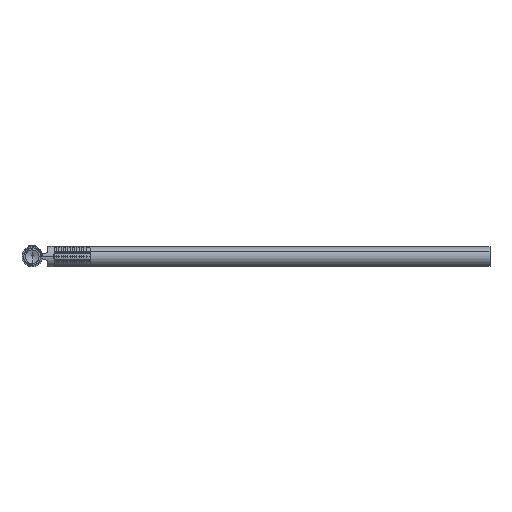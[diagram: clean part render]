
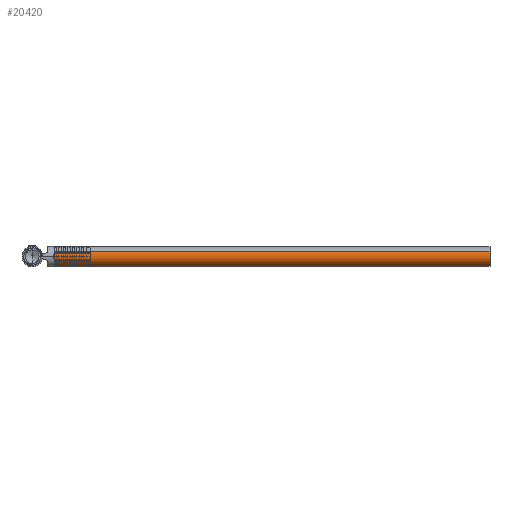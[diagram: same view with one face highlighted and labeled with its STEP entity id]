
A CAD part, left-side view. The second image highlights one B-rep face of the part: STEP entity #20420.
In plain terms, the highlighted cylindrical face has radius 13.716 mm (diameter 27.432 mm), a partial arc.
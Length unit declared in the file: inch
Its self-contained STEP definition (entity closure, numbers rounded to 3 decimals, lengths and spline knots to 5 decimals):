
#1891 = DIRECTION ( 'NONE',  ( 1., 0., 0. ) ) ;
#2770 = EDGE_CURVE ( 'NONE', #13850, #23858, #14737, .T. ) ;
#2812 = EDGE_CURVE ( 'NONE', #22369, #13850, #7436, .T. ) ;
#2820 = EDGE_CURVE ( 'NONE', #18526, #23858, #15528, .T. ) ;
#2862 = EDGE_CURVE ( 'NONE', #22369, #18526, #24948, .T. ) ;
#3108 = ORIENTED_EDGE ( 'NONE', *, *, #2770, .T. ) ;
#6493 = ORIENTED_EDGE ( 'NONE', *, *, #2820, .F. ) ;
#7209 = DIRECTION ( 'NONE',  ( 1., 0., 0. ) ) ;
#7436 = CIRCLE ( 'NONE', #18104, 0.54 ) ;
#7506 = CARTESIAN_POINT ( 'NONE',  ( 0., 0., 0.54 ) ) ;
#7544 = DIRECTION ( 'NONE',  ( 1., 0., 0. ) ) ;
#8209 = VECTOR ( 'NONE', #7209, 39.37008 ) ;
#8405 = CARTESIAN_POINT ( 'NONE',  ( -24., 0., -0.54 ) ) ;
#9959 = CARTESIAN_POINT ( 'NONE',  ( -24., 0., 0. ) ) ;
#11066 = AXIS2_PLACEMENT_3D ( 'NONE', #31906, #1891, #14457 ) ;
#12392 = DIRECTION ( 'NONE',  ( 0., 0., -1. ) ) ;
#12750 = ORIENTED_EDGE ( 'NONE', *, *, #2812, .T. ) ;
#13850 = VERTEX_POINT ( 'NONE', #19830 ) ;
#14457 = DIRECTION ( 'NONE',  ( 0., 0., -1. ) ) ;
#14521 = CARTESIAN_POINT ( 'NONE',  ( 0., 0., 0.54 ) ) ;
#14737 = LINE ( 'NONE', #14521, #8209 ) ;
#15528 = CIRCLE ( 'NONE', #26504, 0.54 ) ;
#17602 = DIRECTION ( 'NONE',  ( 1., 0., 0. ) ) ;
#18104 = AXIS2_PLACEMENT_3D ( 'NONE', #9959, #27356, #12392 ) ;
#18526 = VERTEX_POINT ( 'NONE', #19414 ) ;
#19414 = CARTESIAN_POINT ( 'NONE',  ( 0., 0., -0.54 ) ) ;
#19795 = ORIENTED_EDGE ( 'NONE', *, *, #2862, .F. ) ;
#19830 = CARTESIAN_POINT ( 'NONE',  ( -24., 0., 0.54 ) ) ;
#20420 = ADVANCED_FACE ( 'NONE', ( #24792 ), #30588, .T. ) ;
#22232 = EDGE_LOOP ( 'NONE', ( #12750, #3108, #6493, #19795 ) ) ;
#22369 = VERTEX_POINT ( 'NONE', #8405 ) ;
#22471 = CARTESIAN_POINT ( 'NONE',  ( 0., 0., 0. ) ) ;
#23858 = VERTEX_POINT ( 'NONE', #7506 ) ;
#24792 = FACE_OUTER_BOUND ( 'NONE', #22232, .T. ) ;
#24944 = DIRECTION ( 'NONE',  ( 0., 0., -1. ) ) ;
#24948 = LINE ( 'NONE', #30025, #30728 ) ;
#26504 = AXIS2_PLACEMENT_3D ( 'NONE', #22471, #7544, #24944 ) ;
#27356 = DIRECTION ( 'NONE',  ( 1., 0., 0. ) ) ;
#30025 = CARTESIAN_POINT ( 'NONE',  ( 0., 0., -0.54 ) ) ;
#30588 = CYLINDRICAL_SURFACE ( 'NONE', #11066, 0.54 ) ;
#30728 = VECTOR ( 'NONE', #17602, 39.37008 ) ;
#31906 = CARTESIAN_POINT ( 'NONE',  ( 0., 0., 0. ) ) ;
